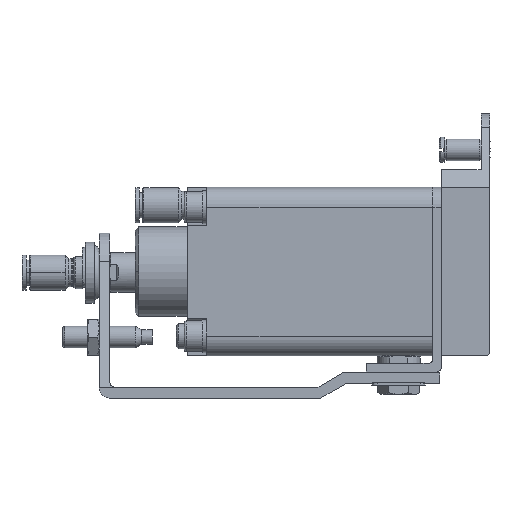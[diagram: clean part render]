
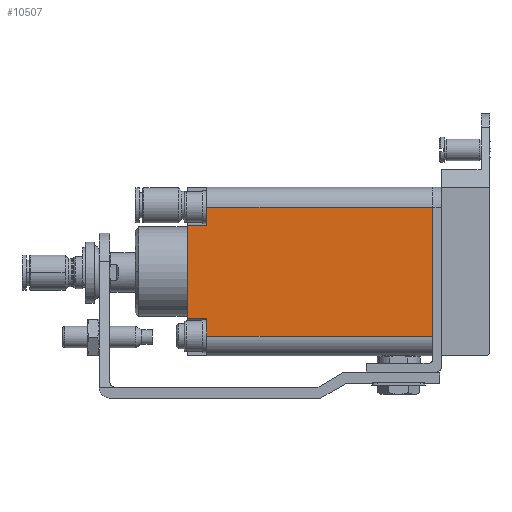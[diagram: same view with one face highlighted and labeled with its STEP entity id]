
A CAD part, left-side view. The second image highlights one B-rep face of the part: STEP entity #10507.
In plain terms, the highlighted planar face has unit normal (-1, 0, 0).
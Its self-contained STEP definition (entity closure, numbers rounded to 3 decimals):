
#552 = ORIENTED_EDGE ( 'NONE', *, *, #29322, .T. ) ;
#1062 = CARTESIAN_POINT ( 'NONE',  ( -21.869, -0.554, 18.251 ) ) ;
#1324 = VECTOR ( 'NONE', #12645, 1000. ) ;
#2234 = VERTEX_POINT ( 'NONE', #4545 ) ;
#2328 = ORIENTED_EDGE ( 'NONE', *, *, #33380, .F. ) ;
#2339 = CARTESIAN_POINT ( 'NONE',  ( -21.869, 67.946, -12.749 ) ) ;
#2373 = CARTESIAN_POINT ( 'NONE',  ( -21.869, 30.946, 18.251 ) ) ;
#2505 = DIRECTION ( 'NONE',  ( 0., 1., 0. ) ) ;
#2833 = EDGE_CURVE ( 'NONE', #22897, #15248, #25122, .T. ) ;
#2883 = ORIENTED_EDGE ( 'NONE', *, *, #11907, .T. ) ;
#3195 = DIRECTION ( 'NONE',  ( 0., -1., 0. ) ) ;
#3261 = ORIENTED_EDGE ( 'NONE', *, *, #2833, .F. ) ;
#3663 = VERTEX_POINT ( 'NONE', #30421 ) ;
#4545 = CARTESIAN_POINT ( 'NONE',  ( -21.869, 62.446, 18.251 ) ) ;
#5219 = DIRECTION ( 'NONE',  ( 0., 0., -1. ) ) ;
#5242 = CARTESIAN_POINT ( 'NONE',  ( -21.869, 67.946, 0.251 ) ) ;
#6463 = VECTOR ( 'NONE', #35186, 1000. ) ;
#6549 = CARTESIAN_POINT ( 'NONE',  ( -21.869, -0.554, 0.251 ) ) ;
#7978 = VECTOR ( 'NONE', #2505, 1000. ) ;
#9555 = CARTESIAN_POINT ( 'NONE',  ( -21.869, 65.196, 13.251 ) ) ;
#9572 = CARTESIAN_POINT ( 'NONE',  ( -21.869, 33.696, -12.749 ) ) ;
#10507 = ADVANCED_FACE ( 'NONE', ( #18344 ), #22798, .T. ) ;
#11588 = ORIENTED_EDGE ( 'NONE', *, *, #28628, .T. ) ;
#11907 = EDGE_CURVE ( 'NONE', #18148, #3663, #33078, .T. ) ;
#12141 = AXIS2_PLACEMENT_3D ( 'NONE', #24218, #24362, #24504 ) ;
#12475 = CARTESIAN_POINT ( 'NONE',  ( -21.869, 62.446, 13.251 ) ) ;
#12645 = DIRECTION ( 'NONE',  ( 0., -1., 0. ) ) ;
#13664 = VECTOR ( 'NONE', #40524, 1000. ) ;
#14290 = ORIENTED_EDGE ( 'NONE', *, *, #14361, .T. ) ;
#14361 = EDGE_CURVE ( 'NONE', #22897, #20779, #22154, .T. ) ;
#14683 = DIRECTION ( 'NONE',  ( 0., 0., 1. ) ) ;
#15248 = VERTEX_POINT ( 'NONE', #12475 ) ;
#15637 = VECTOR ( 'NONE', #28924, 1000. ) ;
#15867 = CARTESIAN_POINT ( 'NONE',  ( -21.869, 33.696, -17.749 ) ) ;
#16050 = VECTOR ( 'NONE', #5219, 1000. ) ;
#16117 = CARTESIAN_POINT ( 'NONE',  ( -21.869, 67.946, 13.251 ) ) ;
#16427 = LINE ( 'NONE', #2373, #7978 ) ;
#16568 = VECTOR ( 'NONE', #3195, 1000. ) ;
#18148 = VERTEX_POINT ( 'NONE', #28836 ) ;
#18344 = FACE_OUTER_BOUND ( 'NONE', #29730, .T. ) ;
#19371 = CARTESIAN_POINT ( 'NONE',  ( -21.869, 62.446, 0.251 ) ) ;
#20779 = VERTEX_POINT ( 'NONE', #2339 ) ;
#22154 = LINE ( 'NONE', #5242, #13664 ) ;
#22653 = LINE ( 'NONE', #40294, #30176 ) ;
#22798 = PLANE ( 'NONE',  #12141 ) ;
#22897 = VERTEX_POINT ( 'NONE', #16117 ) ;
#24218 = CARTESIAN_POINT ( 'NONE',  ( -21.869, -0.554, -17.749 ) ) ;
#24362 = DIRECTION ( 'NONE',  ( -1., 0., 0. ) ) ;
#24504 = DIRECTION ( 'NONE',  ( 0., 0., 1. ) ) ;
#25122 = LINE ( 'NONE', #9555, #16568 ) ;
#26062 = EDGE_CURVE ( 'NONE', #30334, #2234, #16427, .T. ) ;
#27745 = EDGE_CURVE ( 'NONE', #37239, #30334, #40178, .T. ) ;
#28628 = EDGE_CURVE ( 'NONE', #20779, #18148, #39541, .T. ) ;
#28836 = CARTESIAN_POINT ( 'NONE',  ( -21.869, 62.446, -12.749 ) ) ;
#28924 = DIRECTION ( 'NONE',  ( 0., 0., 1. ) ) ;
#29322 = EDGE_CURVE ( 'NONE', #3663, #37239, #34413, .T. ) ;
#29730 = EDGE_LOOP ( 'NONE', ( #2883, #552, #36886, #35216, #2328, #3261, #14290, #11588 ) ) ;
#30176 = VECTOR ( 'NONE', #14683, 1000. ) ;
#30334 = VERTEX_POINT ( 'NONE', #1062 ) ;
#30421 = CARTESIAN_POINT ( 'NONE',  ( -21.869, 62.446, -17.749 ) ) ;
#33078 = LINE ( 'NONE', #19371, #16050 ) ;
#33380 = EDGE_CURVE ( 'NONE', #15248, #2234, #22653, .T. ) ;
#34413 = LINE ( 'NONE', #15867, #1324 ) ;
#35186 = DIRECTION ( 'NONE',  ( 0., -1., 0. ) ) ;
#35216 = ORIENTED_EDGE ( 'NONE', *, *, #26062, .T. ) ;
#35373 = CARTESIAN_POINT ( 'NONE',  ( -21.869, -0.554, -17.749 ) ) ;
#36886 = ORIENTED_EDGE ( 'NONE', *, *, #27745, .T. ) ;
#37239 = VERTEX_POINT ( 'NONE', #35373 ) ;
#39541 = LINE ( 'NONE', #9572, #6463 ) ;
#40178 = LINE ( 'NONE', #6549, #15637 ) ;
#40294 = CARTESIAN_POINT ( 'NONE',  ( -21.869, 62.446, 18.501 ) ) ;
#40524 = DIRECTION ( 'NONE',  ( 0., 0., -1. ) ) ;
